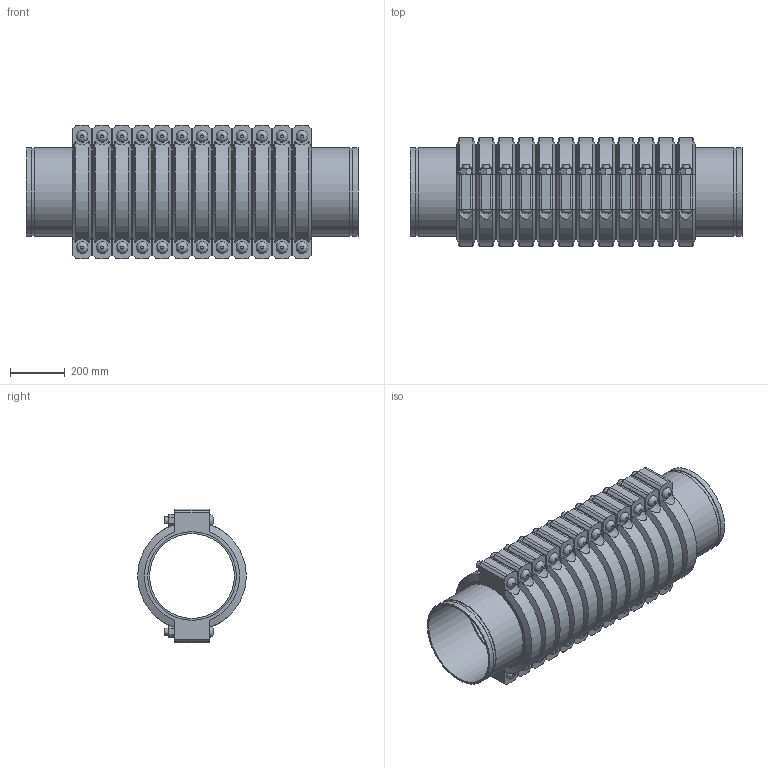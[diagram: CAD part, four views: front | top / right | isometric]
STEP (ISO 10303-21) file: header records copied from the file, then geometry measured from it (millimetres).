
FILE_DESCRIPTION(/* description */ ('VIC SS EXPANSION JOINT 12 COUPLINGS NEUTRAL STYLE 155P (OGS) (POTABLE WATER) ','CAx-IF Rec.Pracs.---Representation and Presentation of Product Manufacturing Information (PMI)---4.0---2014-10-13'),/* implementation_level */ '2;1');
FILE_NAME(/* name */ 'C:\Users\kkamble\AppData\Roaming\Autodesk\ApplicationPlugins\Victaulic.Temp\A871\Victaulic_SS_Expansion Joint_Neutral_12 Couplings_Style 155P (OGS)-Potable Water_12 Coup_Neut_12 (300).stp',/* time_stamp */ '2021-07-16T16:30:11+05:00',/* author */ ('kkamble'),/* organization */ ('Victaulic'),/* preprocessor_version */ 'ST-DEVELOPER v17.2',/* originating_system */ 'Autodesk Inventor 2019',/* authorisation */ '');
FILE_SCHEMA (('AP242_MANAGED_MODEL_BASED_3D_ENGINEERING_MIM_LF { 1 0 10303 442 1 1 4 }'));
Length unit declared in the file: inch
Products named in the file (4): 155P-12.0; Nipple-12.0; Nipple-12.0_1; 077-12.0
Assembly tree (25 placements, depth 2):
  155P-12.0
    Nipple-12.0  x2
    Nipple-12.0_1  x11
    077-12.0  x12
Bounding box: 1212.85 x 397 x 488.95 mm (x, y, z)
Volume: 48311284.8 mm3; surface area: 6501956.6 mm2
Topology: 25 solids, 49 shells, 888 faces, 2130 edges, 1488 vertices
Faces by surface type: plane 510, cylinder 306, cone 48, bspline 24
Full cylindrical faces by diameter (mm): 25.4 x48, 27.432 x24, 309.677 x13, 314.96 x12, 318.287 x26, 323.85 x63
Entity records: 3169 total; most frequent: CARTESIAN_POINT 673, DIRECTION 505, ORIENTED_EDGE 410, AXIS2_PLACEMENT_3D 208, EDGE_CURVE 205, VERTEX_POINT 146, EDGE_LOOP 111, CIRCLE 96
